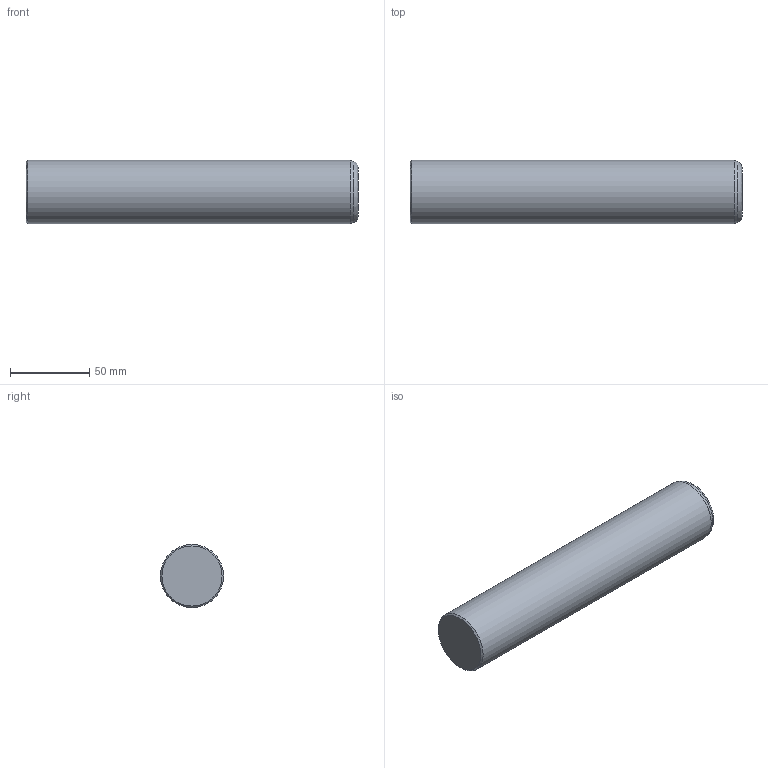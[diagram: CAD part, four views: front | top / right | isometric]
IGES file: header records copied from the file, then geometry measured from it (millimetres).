
Global section: file name: CIS40210.ipt; native system: Autodesk Inventor 2021; preprocessor: unknown; author: SM; date: 20211220.124539; units: millimetre
Bounding box: 210 x 40 x 40 mm (x, y, z)
Volume: 263183.2 mm3; surface area: 28548.1 mm2
Topology: 1 solids, 1 shells, 6 faces, 11 edges, 7 vertices
Faces by surface type: cone 2, plane 2, revolution 1, cylinder 1
Full cylindrical faces by diameter (mm): 40 x1
